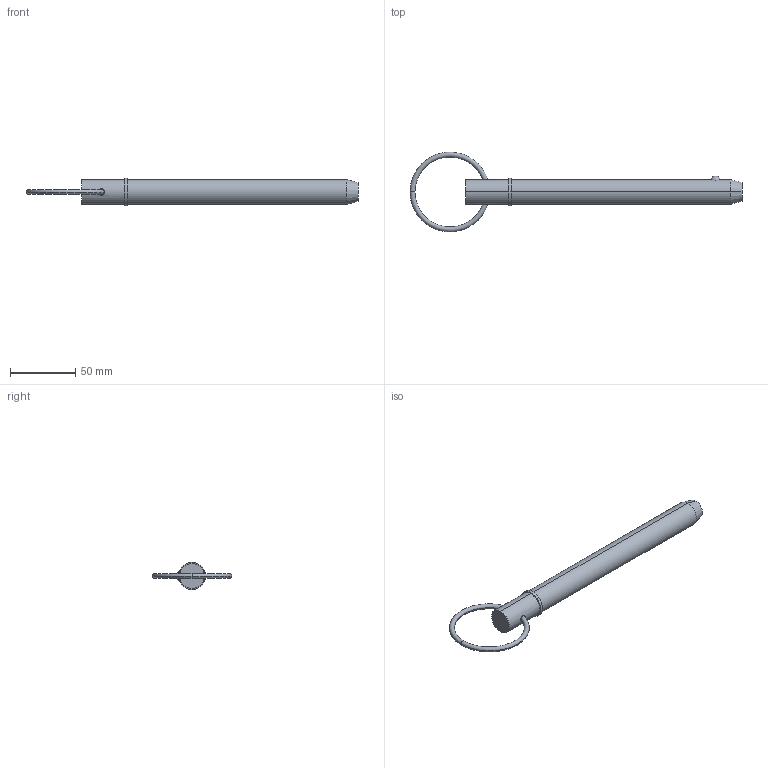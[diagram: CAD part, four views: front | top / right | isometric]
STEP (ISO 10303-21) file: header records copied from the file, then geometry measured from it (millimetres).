
FILE_DESCRIPTION (( 'STEP AP203' ), '1' );
FILE_NAME ('33014.W7560.step', '2024-11-04T08:36:26', ( '' ), ( '' ), 'SwSTEP 2.0', 'SolidWorks 2019', '' );
FILE_SCHEMA (( 'CONFIG_CONTROL_DESIGN' ));
Length unit declared in the file: millimetre
Products named in the file (3): Part2_33014.W7560; Part1_33014.W7560; 33014.W7560
Assembly tree (2 placements, depth 2):
  33014.W7560
    Part1_33014.W7560
    Part2_33014.W7560
Bounding box: 253.6 x 60.96 x 20.95 mm (x, y, z)
Volume: 61483.5 mm3; surface area: 15587.3 mm2
Topology: 2 solids, 2 shells, 22 faces, 43 edges, 26 vertices
Faces by surface type: torus 8, cylinder 6, plane 4, sphere 2, cone 2
Entity records: 1053 total; most frequent: CARTESIAN_POINT 276, DIRECTION 120, ORIENTED_EDGE 86, AXIS2_PLACEMENT_3D 56, EDGE_CURVE 43, CIRCLE 29, EDGE_LOOP 27, VERTEX_POINT 26
